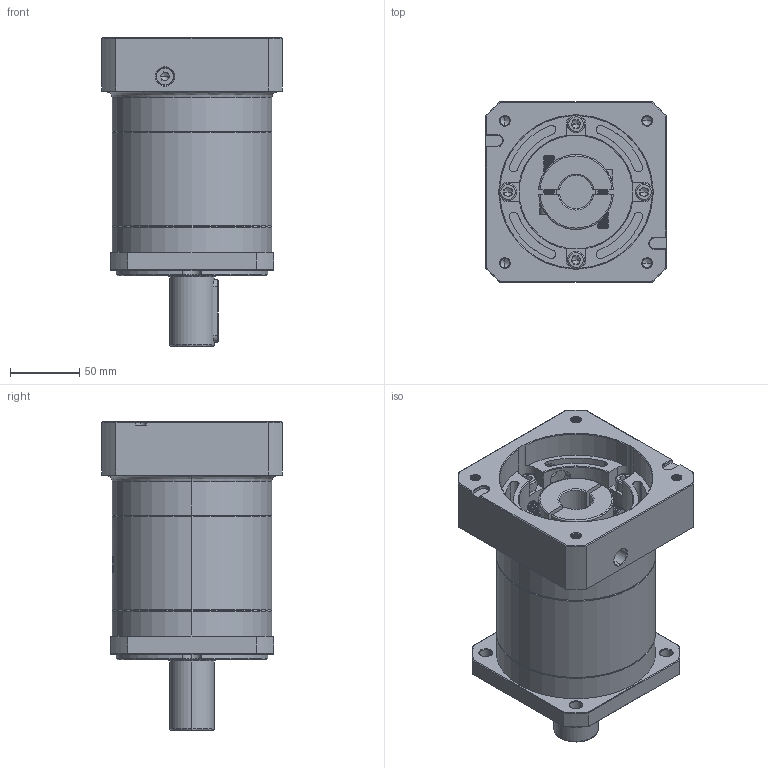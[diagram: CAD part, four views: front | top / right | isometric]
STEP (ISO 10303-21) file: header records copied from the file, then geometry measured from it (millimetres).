
FILE_DESCRIPTION (( 'STEP AP214' ), '1' );
FILE_NAME ('ZF120A-D32-L2-P2-24-110-145-M8.step', '2023-08-27T04:46:17', ( '' ), ( '' ), 'SwSTEP 2.0', 'SolidWorks 2016', '' );
FILE_SCHEMA (( 'AUTOMOTIVE_DESIGN' ));
Length unit declared in the file: millimetre
Products named in the file (1): ZF120A-D32-L2-P2-24-110-145-M8
Bounding box: 130 x 130 x 222.5 mm (x, y, z)
Volume: 1765915.3 mm3; surface area: 193400.9 mm2
Topology: 6 solids, 6 shells, 2278 faces, 6077 edges, 3898 vertices
Faces by surface type: plane 1060, cylinder 449, bspline 421, cone 328, torus 20
Entity records: 126573 total; most frequent: CARTESIAN_POINT 50207, ORIENTED_EDGE 12094, DIRECTION 8811, EDGE_CURVE 6047, VERTEX_POINT 3898, LINE 3173, VECTOR 3173, AXIS2_PLACEMENT_3D 2819
